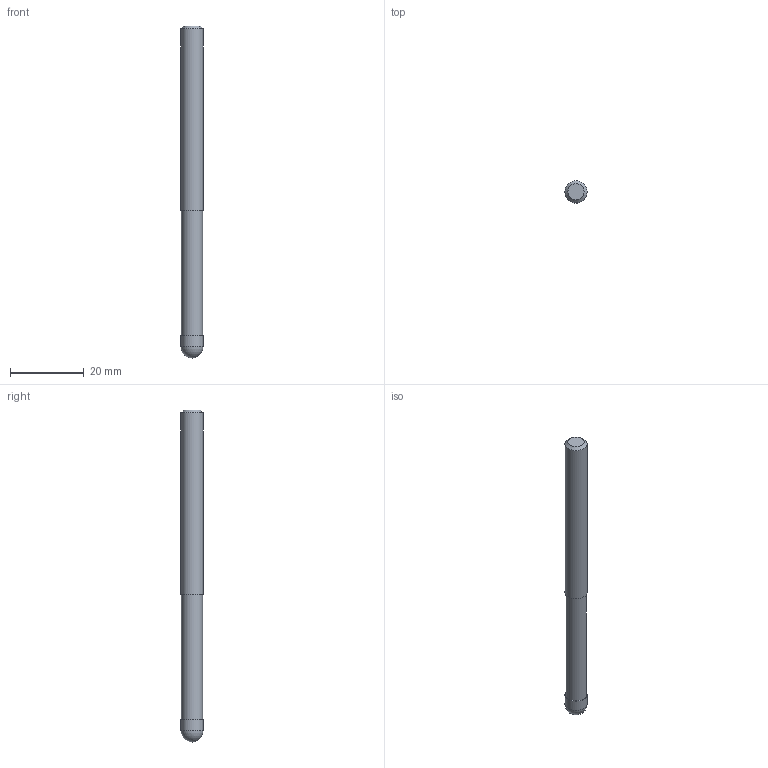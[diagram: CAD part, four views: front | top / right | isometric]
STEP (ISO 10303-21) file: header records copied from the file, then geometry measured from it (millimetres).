
FILE_DESCRIPTION((''),'2;1');
FILE_NAME('C:\Users\nsx150\AppData\Local\Temp\Mastercam 2021\ARV7HD45SN\TEMP.step','2023-06-13T16:39:54',(''),(''),'STEP Write','Mastercam 2021 ... CNC Software, Inc.','');
FILE_SCHEMA(('AUTOMOTIVE_DESIGN'));
Length unit declared in the file: millimetre
Products named in the file (1): None
Bounding box: 6 x 6 x 90 mm (x, y, z)
Volume: 2417.2 mm3; surface area: 1739.6 mm2
Topology: 2 solids, 2 shells, 9 faces, 13 edges, 8 vertices
Faces by surface type: plane 4, cylinder 3, sphere 1, cone 1
Full cylindrical faces by diameter (mm): 5.7 x1, 6 x2
Entity records: 211 total; most frequent: DIRECTION 36, CARTESIAN_POINT 25, AXIS2_PLACEMENT_3D 18, ORIENTED_EDGE 14, EDGE_LOOP 14, STYLED_ITEM 12, ADVANCED_FACE 9, FACE_BOUND 8
